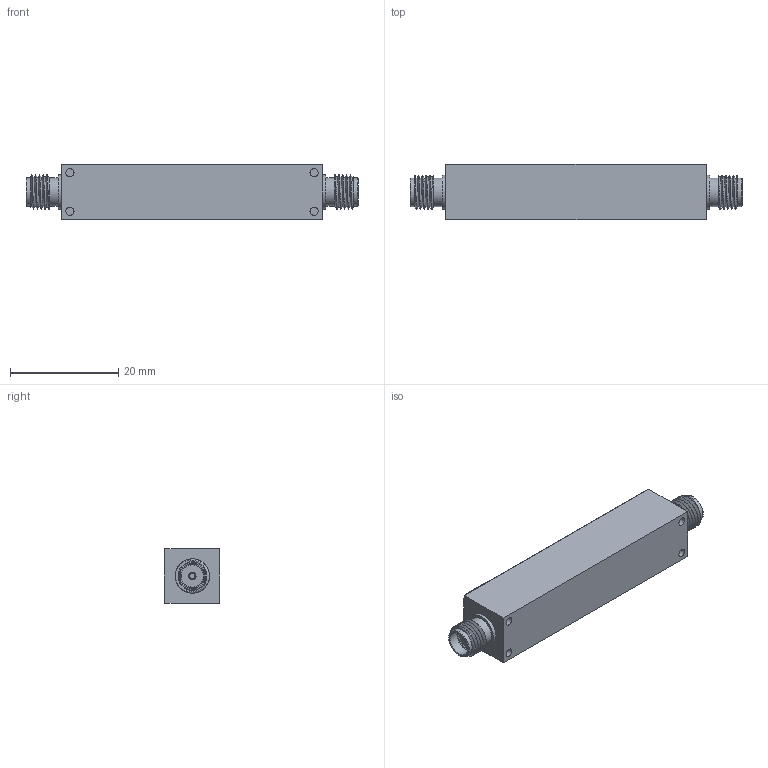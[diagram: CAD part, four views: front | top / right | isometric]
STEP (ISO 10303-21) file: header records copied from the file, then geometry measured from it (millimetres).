
FILE_DESCRIPTION (( 'STEP AP214' ), '1' );
FILE_NAME ('8CL10G-200-CD-SFF Assembly IC.STEP', '2026-05-28T19:35:02', ( '' ), ( '' ), 'SwSTEP 2.0', 'SolidWorks 2025', '' );
FILE_SCHEMA (( 'AUTOMOTIVE_DESIGN' ));
Length unit declared in the file: millimetre
Products named in the file (1): 8CL10G-200-CD-SFF Assembly IC
Bounding box: 61.47 x 10.29 x 10.16 mm (x, y, z)
Surface area: 3234.9 mm2 (no closed solid volume)
Topology: 0 solids, 8 shells, 165 faces, 956 edges, 904 vertices
Faces by surface type: plane 125, cylinder 22, torus 14, bspline 4
Full cylindrical faces by diameter (mm): 1.016 x2, 1.524 x4, 4.191 x2, 4.597 x2, 5.283 x4, 6.35 x2
Entity records: 16041 total; most frequent: CARTESIAN_POINT 6676, ORIENTED_EDGE 1824, DIRECTION 1174, EDGE_CURVE 924, VERTEX_POINT 902, VECTOR 508, LINE 508, AXIS2_PLACEMENT_3D 333
